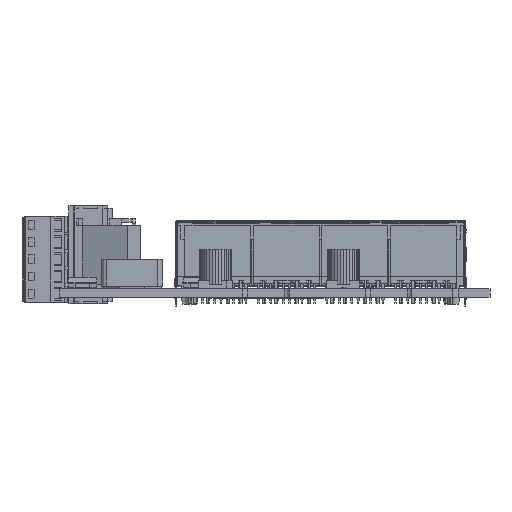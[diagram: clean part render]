
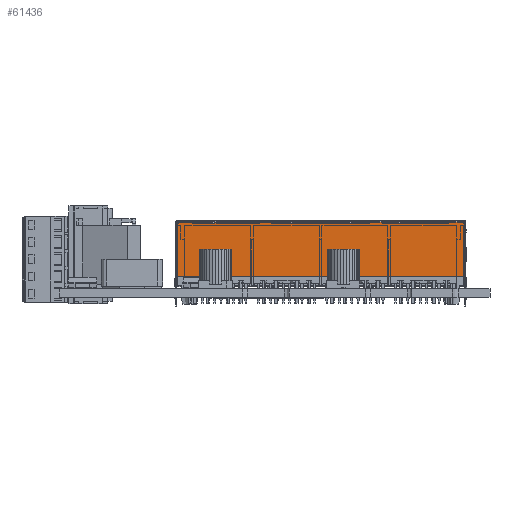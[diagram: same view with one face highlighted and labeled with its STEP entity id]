
A CAD part, front view. The second image highlights one B-rep face of the part: STEP entity #61436.
In plain terms, the highlighted planar face has unit normal (0, -1, 0).
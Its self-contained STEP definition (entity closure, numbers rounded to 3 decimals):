
#61024 = VERTEX_POINT('',#61025);
#61025 = CARTESIAN_POINT('',(38.611,20.024,4.3));
#61032 = EDGE_CURVE('',#61033,#61024,#61035,.T.);
#61033 = VERTEX_POINT('',#61034);
#61034 = CARTESIAN_POINT('',(-19.919,20.024,4.3));
#61035 = LINE('',#61036,#61037);
#61036 = CARTESIAN_POINT('',(-19.919,20.024,4.3));
#61037 = VECTOR('',#61038,1.);
#61038 = DIRECTION('',(1.,0.,0.));
#61149 = VERTEX_POINT('',#61150);
#61150 = CARTESIAN_POINT('',(38.411,20.024,15.15));
#61156 = EDGE_CURVE('',#61157,#61149,#61159,.T.);
#61157 = VERTEX_POINT('',#61158);
#61158 = CARTESIAN_POINT('',(38.611,20.024,15.15));
#61159 = LINE('',#61160,#61161);
#61160 = CARTESIAN_POINT('',(38.611,20.024,15.15));
#61161 = VECTOR('',#61162,1.);
#61162 = DIRECTION('',(-1.,0.,0.));
#61425 = EDGE_CURVE('',#61024,#61157,#61426,.T.);
#61426 = LINE('',#61427,#61428);
#61427 = CARTESIAN_POINT('',(38.611,20.024,4.3));
#61428 = VECTOR('',#61429,1.);
#61429 = DIRECTION('',(0.,0.,1.));
#61436 = ADVANCED_FACE('',(#61437),#61576,.F.);
#61437 = FACE_BOUND('',#61438,.T.);
#61438 = EDGE_LOOP('',(#61439,#61440,#61441,#61449,#61457,#61465,#61473,
    #61481,#61489,#61497,#61505,#61513,#61521,#61529,#61537,#61545,
    #61553,#61561,#61569,#61575));
#61439 = ORIENTED_EDGE('',*,*,#61425,.T.);
#61440 = ORIENTED_EDGE('',*,*,#61156,.T.);
#61441 = ORIENTED_EDGE('',*,*,#61442,.T.);
#61442 = EDGE_CURVE('',#61149,#61443,#61445,.T.);
#61443 = VERTEX_POINT('',#61444);
#61444 = CARTESIAN_POINT('',(38.411,20.024,15.35));
#61445 = LINE('',#61446,#61447);
#61446 = CARTESIAN_POINT('',(38.411,20.024,15.15));
#61447 = VECTOR('',#61448,1.);
#61448 = DIRECTION('',(0.,0.,1.));
#61449 = ORIENTED_EDGE('',*,*,#61450,.T.);
#61450 = EDGE_CURVE('',#61443,#61451,#61453,.T.);
#61451 = VERTEX_POINT('',#61452);
#61452 = CARTESIAN_POINT('',(35.411,20.024,15.35));
#61453 = LINE('',#61454,#61455);
#61454 = CARTESIAN_POINT('',(38.411,20.024,15.35));
#61455 = VECTOR('',#61456,1.);
#61456 = DIRECTION('',(-1.,0.,0.));
#61457 = ORIENTED_EDGE('',*,*,#61458,.F.);
#61458 = EDGE_CURVE('',#61459,#61451,#61461,.T.);
#61459 = VERTEX_POINT('',#61460);
#61460 = CARTESIAN_POINT('',(35.411,20.024,15.15));
#61461 = LINE('',#61462,#61463);
#61462 = CARTESIAN_POINT('',(35.411,20.024,15.15));
#61463 = VECTOR('',#61464,1.);
#61464 = DIRECTION('',(0.,0.,1.));
#61465 = ORIENTED_EDGE('',*,*,#61466,.T.);
#61466 = EDGE_CURVE('',#61459,#61467,#61469,.T.);
#61467 = VERTEX_POINT('',#61468);
#61468 = CARTESIAN_POINT('',(21.846,20.024,15.15));
#61469 = LINE('',#61470,#61471);
#61470 = CARTESIAN_POINT('',(35.411,20.024,15.15));
#61471 = VECTOR('',#61472,1.);
#61472 = DIRECTION('',(-1.,0.,0.));
#61473 = ORIENTED_EDGE('',*,*,#61474,.T.);
#61474 = EDGE_CURVE('',#61467,#61475,#61477,.T.);
#61475 = VERTEX_POINT('',#61476);
#61476 = CARTESIAN_POINT('',(21.846,20.024,15.35));
#61477 = LINE('',#61478,#61479);
#61478 = CARTESIAN_POINT('',(21.846,20.024,15.15));
#61479 = VECTOR('',#61480,1.);
#61480 = DIRECTION('',(0.,0.,1.));
#61481 = ORIENTED_EDGE('',*,*,#61482,.T.);
#61482 = EDGE_CURVE('',#61475,#61483,#61485,.T.);
#61483 = VERTEX_POINT('',#61484);
#61484 = CARTESIAN_POINT('',(19.346,20.024,15.35));
#61485 = LINE('',#61486,#61487);
#61486 = CARTESIAN_POINT('',(21.846,20.024,15.35));
#61487 = VECTOR('',#61488,1.);
#61488 = DIRECTION('',(-1.,0.,0.));
#61489 = ORIENTED_EDGE('',*,*,#61490,.F.);
#61490 = EDGE_CURVE('',#61491,#61483,#61493,.T.);
#61491 = VERTEX_POINT('',#61492);
#61492 = CARTESIAN_POINT('',(19.346,20.024,15.15));
#61493 = LINE('',#61494,#61495);
#61494 = CARTESIAN_POINT('',(19.346,20.024,15.15));
#61495 = VECTOR('',#61496,1.);
#61496 = DIRECTION('',(0.,0.,1.));
#61497 = ORIENTED_EDGE('',*,*,#61498,.T.);
#61498 = EDGE_CURVE('',#61491,#61499,#61501,.T.);
#61499 = VERTEX_POINT('',#61500);
#61500 = CARTESIAN_POINT('',(-0.654,20.024,15.15));
#61501 = LINE('',#61502,#61503);
#61502 = CARTESIAN_POINT('',(19.346,20.024,15.15));
#61503 = VECTOR('',#61504,1.);
#61504 = DIRECTION('',(-1.,0.,0.));
#61505 = ORIENTED_EDGE('',*,*,#61506,.T.);
#61506 = EDGE_CURVE('',#61499,#61507,#61509,.T.);
#61507 = VERTEX_POINT('',#61508);
#61508 = CARTESIAN_POINT('',(-0.654,20.024,15.35));
#61509 = LINE('',#61510,#61511);
#61510 = CARTESIAN_POINT('',(-0.654,20.024,15.15));
#61511 = VECTOR('',#61512,1.);
#61512 = DIRECTION('',(0.,0.,1.));
#61513 = ORIENTED_EDGE('',*,*,#61514,.T.);
#61514 = EDGE_CURVE('',#61507,#61515,#61517,.T.);
#61515 = VERTEX_POINT('',#61516);
#61516 = CARTESIAN_POINT('',(-3.154,20.024,15.35));
#61517 = LINE('',#61518,#61519);
#61518 = CARTESIAN_POINT('',(-0.654,20.024,15.35));
#61519 = VECTOR('',#61520,1.);
#61520 = DIRECTION('',(-1.,0.,0.));
#61521 = ORIENTED_EDGE('',*,*,#61522,.F.);
#61522 = EDGE_CURVE('',#61523,#61515,#61525,.T.);
#61523 = VERTEX_POINT('',#61524);
#61524 = CARTESIAN_POINT('',(-3.154,20.024,15.15));
#61525 = LINE('',#61526,#61527);
#61526 = CARTESIAN_POINT('',(-3.154,20.024,15.15));
#61527 = VECTOR('',#61528,1.);
#61528 = DIRECTION('',(0.,0.,1.));
#61529 = ORIENTED_EDGE('',*,*,#61530,.T.);
#61530 = EDGE_CURVE('',#61523,#61531,#61533,.T.);
#61531 = VERTEX_POINT('',#61532);
#61532 = CARTESIAN_POINT('',(-16.719,20.024,15.15)
  );
#61533 = LINE('',#61534,#61535);
#61534 = CARTESIAN_POINT('',(-3.154,20.024,15.15));
#61535 = VECTOR('',#61536,1.);
#61536 = DIRECTION('',(-1.,0.,0.));
#61537 = ORIENTED_EDGE('',*,*,#61538,.T.);
#61538 = EDGE_CURVE('',#61531,#61539,#61541,.T.);
#61539 = VERTEX_POINT('',#61540);
#61540 = CARTESIAN_POINT('',(-16.719,20.024,15.35)
  );
#61541 = LINE('',#61542,#61543);
#61542 = CARTESIAN_POINT('',(-16.719,20.024,15.15)
  );
#61543 = VECTOR('',#61544,1.);
#61544 = DIRECTION('',(0.,0.,1.));
#61545 = ORIENTED_EDGE('',*,*,#61546,.T.);
#61546 = EDGE_CURVE('',#61539,#61547,#61549,.T.);
#61547 = VERTEX_POINT('',#61548);
#61548 = CARTESIAN_POINT('',(-19.719,20.024,15.35)
  );
#61549 = LINE('',#61550,#61551);
#61550 = CARTESIAN_POINT('',(-16.719,20.024,15.35)
  );
#61551 = VECTOR('',#61552,1.);
#61552 = DIRECTION('',(-1.,0.,0.));
#61553 = ORIENTED_EDGE('',*,*,#61554,.F.);
#61554 = EDGE_CURVE('',#61555,#61547,#61557,.T.);
#61555 = VERTEX_POINT('',#61556);
#61556 = CARTESIAN_POINT('',(-19.719,20.024,15.15)
  );
#61557 = LINE('',#61558,#61559);
#61558 = CARTESIAN_POINT('',(-19.719,20.024,15.15)
  );
#61559 = VECTOR('',#61560,1.);
#61560 = DIRECTION('',(0.,0.,1.));
#61561 = ORIENTED_EDGE('',*,*,#61562,.T.);
#61562 = EDGE_CURVE('',#61555,#61563,#61565,.T.);
#61563 = VERTEX_POINT('',#61564);
#61564 = CARTESIAN_POINT('',(-19.919,20.024,15.15)
  );
#61565 = LINE('',#61566,#61567);
#61566 = CARTESIAN_POINT('',(-19.719,20.024,15.15)
  );
#61567 = VECTOR('',#61568,1.);
#61568 = DIRECTION('',(-1.,0.,0.));
#61569 = ORIENTED_EDGE('',*,*,#61570,.T.);
#61570 = EDGE_CURVE('',#61563,#61033,#61571,.T.);
#61571 = LINE('',#61572,#61573);
#61572 = CARTESIAN_POINT('',(-19.919,20.024,15.15)
  );
#61573 = VECTOR('',#61574,1.);
#61574 = DIRECTION('',(0.,0.,-1.));
#61575 = ORIENTED_EDGE('',*,*,#61032,.T.);
#61576 = PLANE('',#61577);
#61577 = AXIS2_PLACEMENT_3D('',#61578,#61579,#61580);
#61578 = CARTESIAN_POINT('',(9.346,20.024,9.825));
#61579 = DIRECTION('',(0.,1.,0.));
#61580 = DIRECTION('',(-1.,0.,0.));
